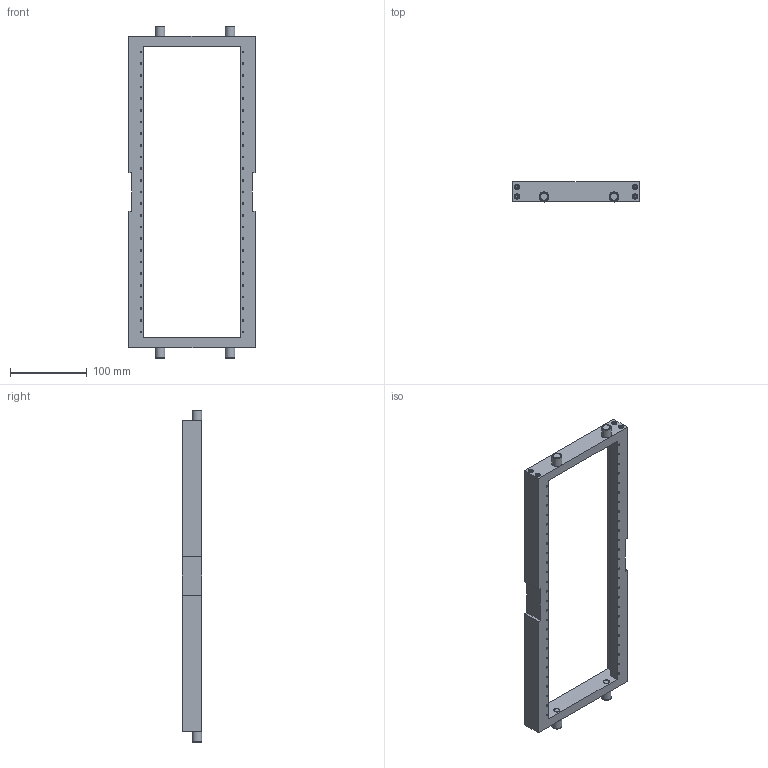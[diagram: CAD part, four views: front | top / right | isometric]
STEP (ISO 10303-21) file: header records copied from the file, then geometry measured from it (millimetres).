
FILE_DESCRIPTION(/* description */ (''),/* implementation_level */ '2;1');
FILE_NAME(/* name */ 'D:\CAD\CAD COMPLETE\web site project\ITAs\70206455-RevJ-STP\70206455-RevJ-STP.stp',/* time_stamp */ '2017-09-19T08:31:33+01:00',/* author */ ('davec'),/* organization */ (''),/* preprocessor_version */ 'ST-DEVELOPER v15.2',/* originating_system */ 'Autodesk Inventor 2014',/* authorisation */ '');
FILE_SCHEMA (('AUTOMOTIVE_DESIGN { 1 0 10303 214 3 1 1 }'));
Length unit declared in the file: inch
Products named in the file (1): 70206455-CU
Bounding box: 164.59 x 25.4 x 433.32 mm (x, y, z)
Volume: 382518.3 mm3; surface area: 110188 mm2
Topology: 1 solids, 21 shells, 478 faces, 1032 edges, 686 vertices
Faces by surface type: plane 248, cylinder 190, cone 40
Full cylindrical faces by diameter (mm): 2.159 x50, 2.642 x4, 3.302 x8, 3.505 x4, 4.166 x8, 4.496 x8, 5.207 x50, 6.858 x8, 7.137 x16, 7.747 x4, 7.925 x8, 9.271 x4, 9.461 x4, 9.538 x4, 11.1 x4, 12.675 x4
Entity records: 12070 total; most frequent: CARTESIAN_POINT 2111, DIRECTION 2042, ORIENTED_EDGE 1488, EDGE_LOOP 922, AXIS2_PLACEMENT_3D 919, EDGE_CURVE 744, VERTEX_POINT 626, FACE_BOUND 485
